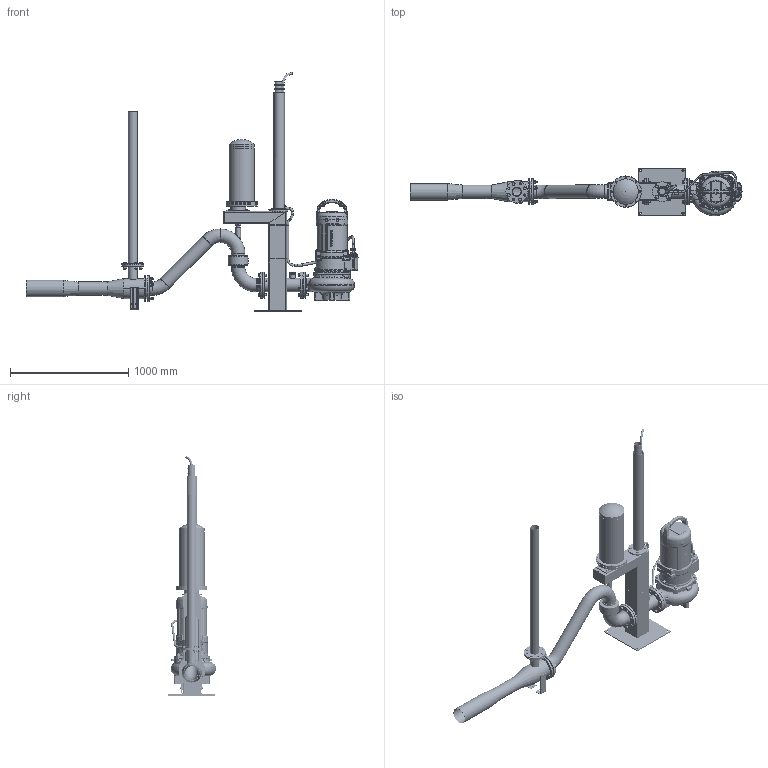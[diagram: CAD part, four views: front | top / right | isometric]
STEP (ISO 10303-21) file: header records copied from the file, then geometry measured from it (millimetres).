
FILE_DESCRIPTION(/* description */ (''),/* implementation_level */ '2;1');
FILE_NAME(/* name */ 'H:\3D\Projekte\@Schwenkjet\Schwenker_DN100\Step_Dateien\SwingAmajet_100_vertical_installation_KA_16.stp',/* time_stamp */ '2021-04-12T22:51:06+02:00',/* author */ ('emmrpat'),/* organization */ (''),/* preprocessor_version */ 'ST-DEVELOPER v18',/* originating_system */ 'Autodesk Inventor 2020',/* authorisation */ '');
FILE_SCHEMA (('AUTOMOTIVE_DESIGN { 1 0 10303 214 3 1 1 }'));
Length unit declared in the file: millimetre
Products named in the file (48): SwingAmajet_100_Vertikale_Aufstellung_01; Neuer_Antriebsstaender_0Grad; Neuer_Antriebsstaender; Antriebsstaender_neu; Vorschweißbördel_30mm_DN100_PN10; Losflansch_DN100_PN10_20mm; DN100_01; Blindmuffe_1_1-4zoll; Muffe_1_1-4zoll_gegossen; Drehantrieb_600mm; 936100009_Kabelführungsrohr_Montageanleitung; Kabelschutzrohr_Montageanleitung; 0-05011-00-000-0-IFG-Buckelgelenk-DN100-ZSB_Teil_01; Adapterplatte_DN100_936100008; 0-05011-00-000-0-IFG-Buckelgelenk-DN100-ZSB_Teil_02; Antriebswelle; ISO 4017 - M16 x 30; ISO 4017 - M16 x 60; ISO 7089 -  10; ISO 4017 - M10 x 20; Stift_10x40mm; ISO 4017 - M16 x 70; Frankfurter-Injektor; Frankfurter-Injektor_1; Glattflansch DN100-PN10; Glattflansch_DN65_PN10_10mm_8Loch; Frankfurter-Injektor_DN65_500mm; Frankfurter-Injektor_Winkelhalter; ISO 7089 -  8; ISO 4017 - M8 x 20; DIN 938 - M16 x 60; ISO 4017 - M16 x 50; ISO 4032 - M16; ISO 7089 -  16; Kabelbinder_lueftung_einfach; Kabel_18mm_1000lang; Kabel_18mm_Bogen; KRT_100-250; UG155595214_01; Kabel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
Assembly tree (98 placements, depth 4):
  SwingAmajet_100_Vertikale_Aufstellung_01
    Neuer_Antriebsstaender_0Grad
      Neuer_Antriebsstaender
        Antriebsstaender_neu
        Glattflansch DN100-PN10
        Vorschweißbördel_30mm_DN100_PN10
        Losflansch_DN100_PN10_20mm
        DN100_01
        Blindmuffe_1_1-4zoll
        Muffe_1_1-4zoll_gegossen
      Drehantrieb_600mm
      936100009_Kabelführungsrohr_Montageanleitung
      Kabelschutzrohr_Montageanleitung
      0-05011-00-000-0-IFG-Buckelgelenk-DN100-ZSB_Teil_01
      Adapterplatte_DN100_936100008
      0-05011-00-000-0-IFG-Buckelgelenk-DN100-ZSB_Teil_02
      Antriebswelle
      ISO 4017 - M16 x 30  x4
      ISO 4017 - M16 x 60  x4
      ISO 7089 -  10  x4
      ISO 4017 - M10 x 20  x4
      Stift_10x40mm
      ISO 4017 - M16 x 70  x4
    Frankfurter-Injektor
      Frankfurter-Injektor_1
      Glattflansch DN100-PN10
      Glattflansch_DN65_PN10_10mm_8Loch  x2
      Frankfurter-Injektor_DN65_500mm
      Frankfurter-Injektor_Winkelhalter  x2
    ISO 7089 -  8  x4
    ISO 4017 - M8 x 20  x4
    DIN 938 - M16 x 60  x4
    ISO 4032 - M16  x8
    ISO 7089 -  16  x8
    ISO 4017 - M16 x 50  x4
    Kabelbinder_lueftung_einfach  x2
    Kabel_18mm_1000lang
    Kabel_18mm_Bogen
    Kabel_18mm_Bogen_45Grad  x4
    Kabel_18mm_Bogen_01  x3
    KRT_100-250
    UG155595214_01
    Kabel
    Kabelbinder_A-Staender_einfach_a  x2
    Kabel_18mm_100lang
    Kabel_18mm_08
    Kabel_18mm_09
    Kabel_18mm_10
    Kabel_18mm_11
Bounding box: 2809.7 x 403 x 2025 mm (x, y, z)
Volume: 50268343.8 mm3; surface area: 9357346.9 mm2
Topology: 161 solids, 161 shells, 3629 faces, 8773 edges, 5578 vertices
Faces by surface type: plane 1326, cylinder 918, bspline 667, cone 385, torus 292, sphere 41
Full cylindrical faces by diameter (mm): 3 x12, 3.05 x2, 3.3 x1, 4 x12, 5 x12, 6 x16, 6.8 x1, 7 x24, 8 x8, 8.4 x4, 8.5 x6, 10 x16, 10.5 x4, 11 x10, 11.63 x4, 12 x18, 13.378 x1, 13.835 x12, 14.63 x4, 15.25 x1, 16 x47, 16.4 x2, 16.662 x1, 16.917 x2, 17 x12, 17.1 x1, 17.5 x4, 18 x91, 20 x4, 22 x1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
Entity records: 131619 total; most frequent: CARTESIAN_POINT 59291, ORIENTED_EDGE 14370, DIRECTION 14053, EDGE_CURVE 7185, AXIS2_PLACEMENT_3D 5823, VERTEX_POINT 4589, EDGE_LOOP 3520, CIRCLE 3168
